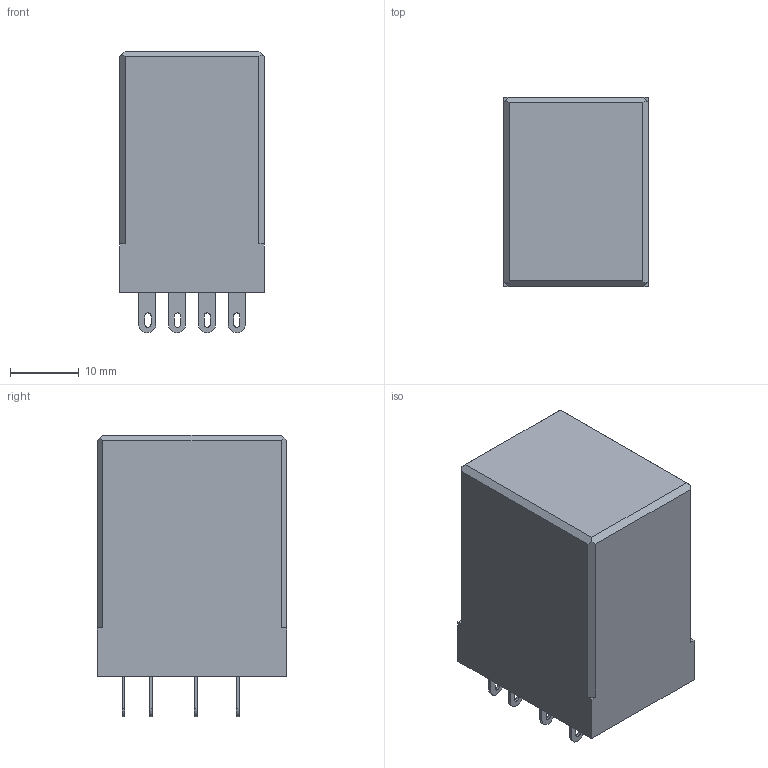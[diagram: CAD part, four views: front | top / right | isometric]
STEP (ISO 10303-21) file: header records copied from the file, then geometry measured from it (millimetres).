
FILE_DESCRIPTION (( 'STEP AP203' ), '1' );
FILE_NAME ('RI-54 ENGARD.STEP', '2021-12-08T11:34:54', ( '' ), ( '' ), 'SwSTEP 2.0', 'SolidWorks 2017', '' );
FILE_SCHEMA (( 'CONFIG_CONTROL_DESIGN' ));
Length unit declared in the file: millimetre
Products named in the file (1): RI-54 ENGARD
Bounding box: 21 x 27.5 x 40.9 mm (x, y, z)
Volume: 5644.8 mm3; surface area: 10257.6 mm2
Topology: 16 solids, 16 shells, 211 faces, 534 edges, 356 vertices
Faces by surface type: plane 141, cylinder 70
Entity records: 6451 total; most frequent: CARTESIAN_POINT 1102, DIRECTION 1098, ORIENTED_EDGE 1068, EDGE_CURVE 534, LINE 394, VECTOR 394, VERTEX_POINT 356, AXIS2_PLACEMENT_3D 352
